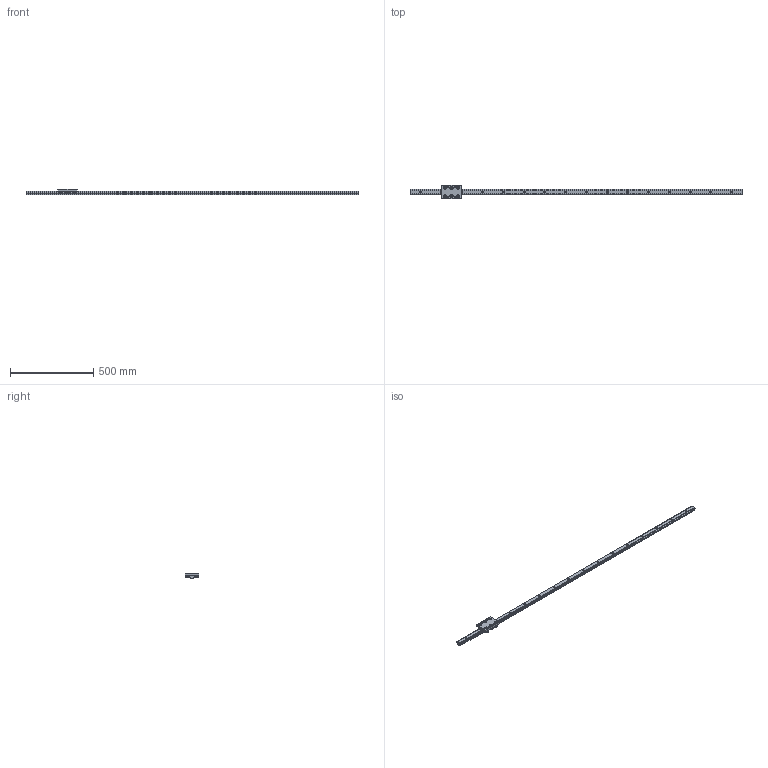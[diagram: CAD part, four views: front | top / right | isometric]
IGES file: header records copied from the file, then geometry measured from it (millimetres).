
Global section: file name: No Iges File Name specified; native system: AutoDesk Inventor R11.0; preprocessor: AutoDesk Inventor Iges Exporter R11.0; author: No Author specified; organization: No Organization specified; date: 20170718.165014; units: millimetre
Bounding box: 2000 x 80 x 35.5 mm (x, y, z)
Surface area: 242929.8 mm2 (no closed solid volume)
Topology: 0 solids, 0 shells, 367 faces, 2262 edges, 2262 vertices
Faces by surface type: bspline 367
